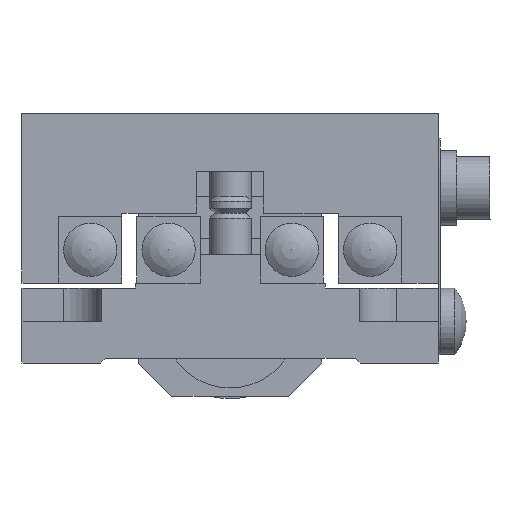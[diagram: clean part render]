
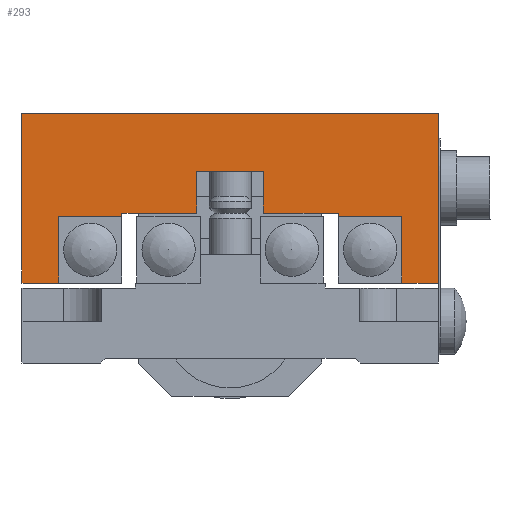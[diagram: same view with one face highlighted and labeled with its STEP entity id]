
A CAD part, front view. The second image highlights one B-rep face of the part: STEP entity #293.
In plain terms, the highlighted planar face has unit normal (0, -1, 0).
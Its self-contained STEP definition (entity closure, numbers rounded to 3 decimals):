
#293 = ADVANCED_FACE( '', ( #674 ), #675, .T. );
#674 = FACE_OUTER_BOUND( '', #1191, .T. );
#675 = PLANE( '', #1192 );
#1191 = EDGE_LOOP( '', ( #2360, #2361, #2362, #2363, #2364, #2365, #2366, #2367, #2368, #2369, #2370, #2371, #2372, #2373, #2374, #2375 ) );
#1192 = AXIS2_PLACEMENT_3D( '', #2376, #2377, #2378 );
#2360 = ORIENTED_EDGE( '', *, *, #3190, .T. );
#2361 = ORIENTED_EDGE( '', *, *, #3179, .T. );
#2362 = ORIENTED_EDGE( '', *, *, #3183, .T. );
#2363 = ORIENTED_EDGE( '', *, *, #3206, .T. );
#2364 = ORIENTED_EDGE( '', *, *, #3207, .T. );
#2365 = ORIENTED_EDGE( '', *, *, #3208, .T. );
#2366 = ORIENTED_EDGE( '', *, *, #3209, .T. );
#2367 = ORIENTED_EDGE( '', *, *, #3210, .T. );
#2368 = ORIENTED_EDGE( '', *, *, #3211, .T. );
#2369 = ORIENTED_EDGE( '', *, *, #3212, .T. );
#2370 = ORIENTED_EDGE( '', *, *, #3204, .T. );
#2371 = ORIENTED_EDGE( '', *, *, #3154, .T. );
#2372 = ORIENTED_EDGE( '', *, *, #3213, .T. );
#2373 = ORIENTED_EDGE( '', *, *, #3201, .T. );
#2374 = ORIENTED_EDGE( '', *, *, #3125, .T. );
#2375 = ORIENTED_EDGE( '', *, *, #3155, .F. );
#2376 = CARTESIAN_POINT( '', ( 0., -12.5, 4.8 ) );
#2377 = DIRECTION( '', ( 0., -1., 0. ) );
#2378 = DIRECTION( '', ( 0., 0., -1. ) );
#3125 = EDGE_CURVE( '', #3726, #3727, #3728, .T. );
#3154 = EDGE_CURVE( '', #3771, #3775, #3777, .T. );
#3155 = EDGE_CURVE( '', #3778, #3727, #3779, .T. );
#3179 = EDGE_CURVE( '', #3824, #3822, #3825, .T. );
#3183 = EDGE_CURVE( '', #3822, #3829, #3831, .T. );
#3190 = EDGE_CURVE( '', #3778, #3824, #3842, .T. );
#3201 = EDGE_CURVE( '', #3859, #3726, #3861, .T. );
#3204 = EDGE_CURVE( '', #3866, #3771, #3867, .T. );
#3206 = EDGE_CURVE( '', #3829, #3869, #3870, .T. );
#3207 = EDGE_CURVE( '', #3869, #3871, #3872, .T. );
#3208 = EDGE_CURVE( '', #3871, #3873, #3874, .T. );
#3209 = EDGE_CURVE( '', #3873, #3875, #3876, .T. );
#3210 = EDGE_CURVE( '', #3875, #3877, #3878, .T. );
#3211 = EDGE_CURVE( '', #3877, #3879, #3880, .T. );
#3212 = EDGE_CURVE( '', #3879, #3866, #3881, .T. );
#3213 = EDGE_CURVE( '', #3775, #3859, #3882, .T. );
#3726 = VERTEX_POINT( '', #4645 );
#3727 = VERTEX_POINT( '', #4646 );
#3728 = LINE( '', #4647, #4648 );
#3771 = VERTEX_POINT( '', #4723 );
#3775 = VERTEX_POINT( '', #4729 );
#3777 = LINE( '', #4732, #4733 );
#3778 = VERTEX_POINT( '', #4734 );
#3779 = LINE( '', #4735, #4736 );
#3822 = VERTEX_POINT( '', #4820 );
#3824 = VERTEX_POINT( '', #4823 );
#3825 = LINE( '', #4824, #4825 );
#3829 = VERTEX_POINT( '', #4831 );
#3831 = LINE( '', #4834, #4835 );
#3842 = LINE( '', #4852, #4853 );
#3859 = VERTEX_POINT( '', #4885 );
#3861 = LINE( '', #4888, #4889 );
#3866 = VERTEX_POINT( '', #4895 );
#3867 = LINE( '', #4896, #4897 );
#3869 = VERTEX_POINT( '', #4900 );
#3870 = LINE( '', #4901, #4902 );
#3871 = VERTEX_POINT( '', #4903 );
#3872 = LINE( '', #4904, #4905 );
#3873 = VERTEX_POINT( '', #4906 );
#3874 = LINE( '', #4907, #4908 );
#3875 = VERTEX_POINT( '', #4909 );
#3876 = LINE( '', #4910, #4911 );
#3877 = VERTEX_POINT( '', #4912 );
#3878 = LINE( '', #4913, #4914 );
#3879 = VERTEX_POINT( '', #4915 );
#3880 = LINE( '', #4916, #4917 );
#3881 = LINE( '', #4918, #4919 );
#3882 = LINE( '', #4920, #4921 );
#4645 = CARTESIAN_POINT( '', ( 12.5, -12.5, 15. ) );
#4646 = CARTESIAN_POINT( '', ( -12.5, -12.5, 15. ) );
#4647 = CARTESIAN_POINT( '', ( 0., -12.5, 15. ) );
#4648 = VECTOR( '', #5474, 1000. );
#4723 = CARTESIAN_POINT( '', ( 10.3, -12.5, 8.8 ) );
#4729 = CARTESIAN_POINT( '', ( 10.3, -12.5, 4.8 ) );
#4732 = CARTESIAN_POINT( '', ( 10.3, -12.5, 4.8 ) );
#4733 = VECTOR( '', #5508, 1000. );
#4734 = CARTESIAN_POINT( '', ( -12.5, -12.5, 4.8 ) );
#4735 = CARTESIAN_POINT( '', ( -12.5, -12.5, 4.8 ) );
#4736 = VECTOR( '', #5509, 1000. );
#4820 = CARTESIAN_POINT( '', ( -10.3, -12.5, 8.8 ) );
#4823 = CARTESIAN_POINT( '', ( -10.3, -12.5, 4.8 ) );
#4824 = CARTESIAN_POINT( '', ( -10.3, -12.5, 4.8 ) );
#4825 = VECTOR( '', #5552, 1000. );
#4831 = CARTESIAN_POINT( '', ( -6.5, -12.5, 8.8 ) );
#4834 = CARTESIAN_POINT( '', ( 0., -12.5, 8.8 ) );
#4835 = VECTOR( '', #5556, 1000. );
#4852 = CARTESIAN_POINT( '', ( 0., -12.5, 4.8 ) );
#4853 = VECTOR( '', #5563, 1000. );
#4885 = CARTESIAN_POINT( '', ( 12.5, -12.5, 4.8 ) );
#4888 = CARTESIAN_POINT( '', ( 12.5, -12.5, 4.8 ) );
#4889 = VECTOR( '', #5581, 1000. );
#4895 = CARTESIAN_POINT( '', ( 6.5, -12.5, 8.8 ) );
#4896 = CARTESIAN_POINT( '', ( 0., -12.5, 8.8 ) );
#4897 = VECTOR( '', #5586, 1000. );
#4900 = CARTESIAN_POINT( '', ( -6.5, -12.5, 9. ) );
#4901 = CARTESIAN_POINT( '', ( -6.5, -12.5, 4.8 ) );
#4902 = VECTOR( '', #5588, 1000. );
#4903 = CARTESIAN_POINT( '', ( -2., -12.5, 9. ) );
#4904 = CARTESIAN_POINT( '', ( 0., -12.5, 9. ) );
#4905 = VECTOR( '', #5589, 1000. );
#4906 = CARTESIAN_POINT( '', ( -2., -12.5, 11.5 ) );
#4907 = CARTESIAN_POINT( '', ( -2., -12.5, 4.8 ) );
#4908 = VECTOR( '', #5590, 1000. );
#4909 = CARTESIAN_POINT( '', ( 2., -12.5, 11.5 ) );
#4910 = CARTESIAN_POINT( '', ( 0., -12.5, 11.5 ) );
#4911 = VECTOR( '', #5591, 1000. );
#4912 = CARTESIAN_POINT( '', ( 2., -12.5, 9. ) );
#4913 = CARTESIAN_POINT( '', ( 2., -12.5, 4.8 ) );
#4914 = VECTOR( '', #5592, 1000. );
#4915 = CARTESIAN_POINT( '', ( 6.5, -12.5, 9. ) );
#4916 = CARTESIAN_POINT( '', ( 0., -12.5, 9. ) );
#4917 = VECTOR( '', #5593, 1000. );
#4918 = CARTESIAN_POINT( '', ( 6.5, -12.5, 4.8 ) );
#4919 = VECTOR( '', #5594, 1000. );
#4920 = CARTESIAN_POINT( '', ( 0., -12.5, 4.8 ) );
#4921 = VECTOR( '', #5595, 1000. );
#5474 = DIRECTION( '', ( -1., 0., 0. ) );
#5508 = DIRECTION( '', ( 0., 0., -1. ) );
#5509 = DIRECTION( '', ( 0., 0., 1. ) );
#5552 = DIRECTION( '', ( 0., 0., 1. ) );
#5556 = DIRECTION( '', ( 1., 0., 0. ) );
#5563 = DIRECTION( '', ( 1., 0., 0. ) );
#5581 = DIRECTION( '', ( 0., 0., 1. ) );
#5586 = DIRECTION( '', ( 1., 0., 0. ) );
#5588 = DIRECTION( '', ( 0., 0., 1. ) );
#5589 = DIRECTION( '', ( 1., 0., 0. ) );
#5590 = DIRECTION( '', ( 0., 0., 1. ) );
#5591 = DIRECTION( '', ( 1., 0., 0. ) );
#5592 = DIRECTION( '', ( 0., 0., -1. ) );
#5593 = DIRECTION( '', ( 1., 0., 0. ) );
#5594 = DIRECTION( '', ( 0., 0., -1. ) );
#5595 = DIRECTION( '', ( 1., 0., 0. ) );
